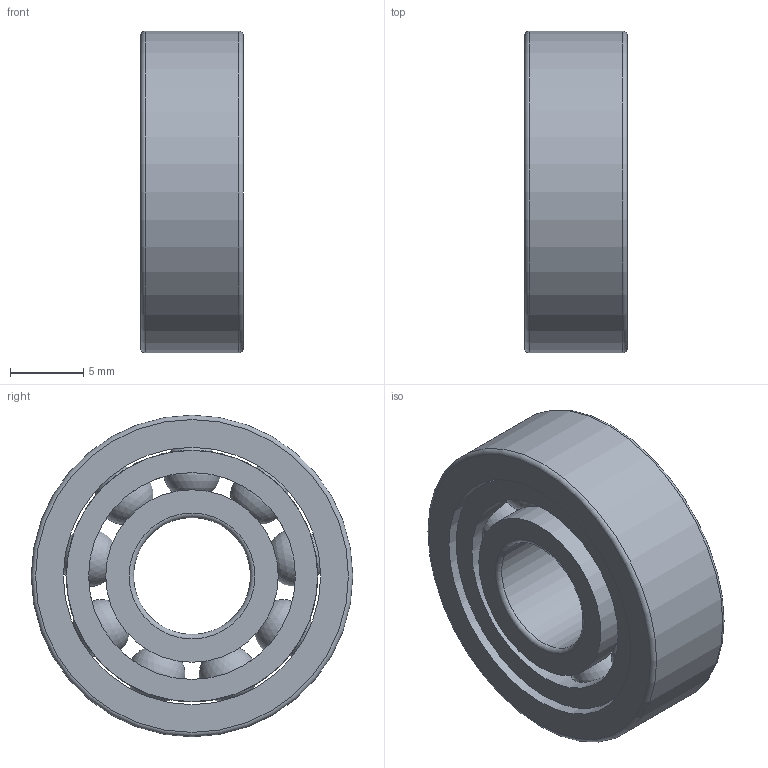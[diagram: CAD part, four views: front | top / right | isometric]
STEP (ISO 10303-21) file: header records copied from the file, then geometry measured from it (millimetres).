
FILE_DESCRIPTION(/* description */ (''),/* implementation_level */ '2;1');
FILE_NAME(/* name */ 'S_608_TA.step',/* time_stamp */ '2013-03-06T14:43:06+01:00',/* author */ ('Marian'),/* organization */ ('GMN'),/* preprocessor_version */ 'ST-DEVELOPER v11',/* originating_system */ 'SIEMENS UGS NX 6.0',/* authorisation */ '');
FILE_SCHEMA (('CONFIG_CONTROL_DESIGN'));
Length unit declared in the file: millimetre
Products named in the file (1): S_608_TA
Bounding box: 7 x 22 x 22 mm (x, y, z)
Volume: 1773.8 mm3; surface area: 2787.8 mm2
Topology: 12 solids, 12 shells, 38 faces, 88 edges, 56 vertices
Faces by surface type: cylinder 16, sphere 9, torus 6, plane 6, cone 1
Full cylindrical faces by diameter (mm): 4.169 x9, 8 x1, 11.8 x2, 14.149 x1, 17.2 x1, 17.6 x1, 22 x1
Entity records: 1884 total; most frequent: CARTESIAN_POINT 1150, DIRECTION 118, FACE_BOUND 85, EDGE_LOOP 76, ORIENTED_EDGE 76, AXIS2_PLACEMENT_3D 59, VERTEX_POINT 47, EDGE_CURVE 38
